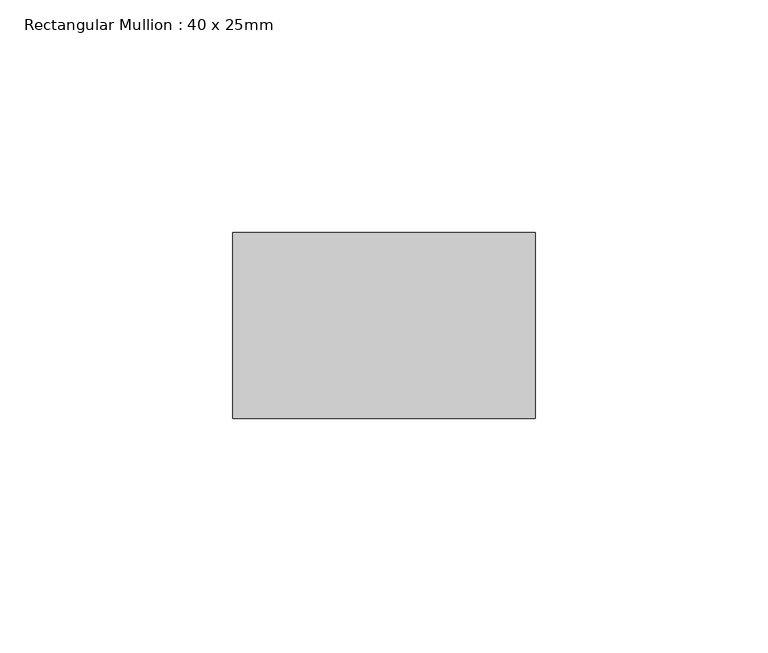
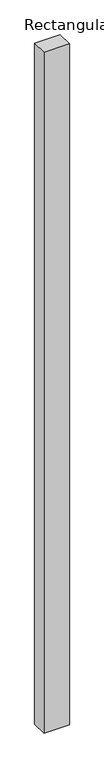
"""IFC4 building model written with IfcOpenShell, lengths in millimetres: member geometry, Rectangular Mullion : 40 x 25mm."""

from ifc_helpers import new_model, si_unit, frame, origin, place, context, project, spatial, polyline, outline, extrude, source, transform, mapped, element, save


def rectangular_mullion_40_x_25mm_ce8cfd2d(model_context):
    return source(origin(), model_context, "Body", "SweptSolid", [
        extrude(outline(polyline([(0.0, -20.0), (0.0, -60.0), (-65.0, -60.0), (-65.0, -20.0), (0.0, -20.0)])), frame((0.0, 0.0, -1827.9995768), z_axis=(0.0, 0.0, 1.0), x_axis=(1.0, 0.0, 0.0)), (0.0, 0.0, 1.0), 1827.9995768),
    ])


if __name__ == "__main__":
    model = new_model("IFC4")
    model_context = context("Model", 3, world=origin())
    ifc_project = project(units=[si_unit("LENGTHUNIT", "METRE", prefix="MILLI")], contexts=[model_context])
    site = spatial("IfcSite", under=ifc_project)
    building = spatial("IfcBuilding", under=site)
    placement = place(None, origin())
    rectangular_mullion_40_x_25mm_shape = rectangular_mullion_40_x_25mm_ce8cfd2d(model_context)
    element("IfcMember", 1, ObjectType="Rectangular Mullion : 40 x 25mm", at=placement, inside=building, context=model_context, shape_type="MappedRepresentation", body=[
        mapped(rectangular_mullion_40_x_25mm_shape, transform((0.0, 0.0, 0.0), x_axis=(1.0, 0.0, 0.0), y_axis=(0.0, 1.0, 0.0), z_axis=(0.0, 0.0, 1.0))),
    ])
    save(model, "model.ifc")
